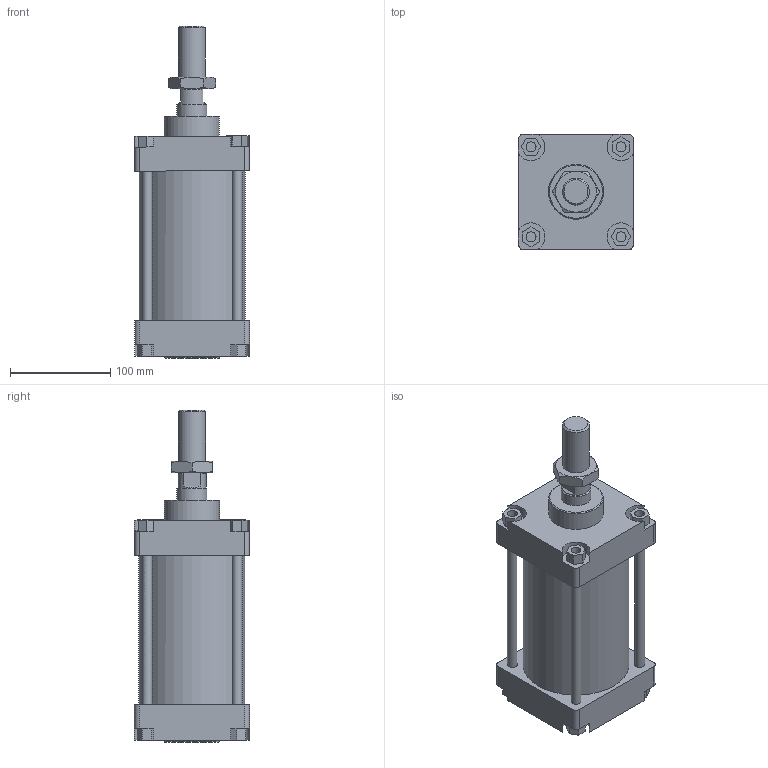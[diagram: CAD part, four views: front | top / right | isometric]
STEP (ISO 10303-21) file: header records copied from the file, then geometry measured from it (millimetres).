
FILE_DESCRIPTION(/* description */ (''),/* implementation_level */ '2;1');
FILE_NAME(/* name */ 'I:\Area Tecnica\Disegni\VARIE-3D\Componenti\CSP\Ø100\130#_100_####_###\1303_100_0075_01A.stp',/* time_stamp */ '2016-11-24T14:04:05+01:00',/* author */ ('Maniean1'),/* organization */ ('Pneumax S.p.A.'),/* preprocessor_version */ 'ST-DEVELOPER v15.2',/* originating_system */ 'Autodesk Inventor 2014',/* authorisation */ '');
FILE_SCHEMA (('AUTOMOTIVE_DESIGN { 1 0 10303 214 3 1 1 }'));
Length unit declared in the file: millimetre
Products named in the file (6): C_130#_100_0075; Testata anteriore_100; Testata posteriore_100; S_1303_100_0075_01A; 1300_100_18F; 1303_100_0075_01A
Bounding box: 115 x 115 x 332 mm (x, y, z)
Volume: 1784243.9 mm3; surface area: 293935.8 mm2
Topology: 9 solids, 9 shells, 162 faces, 380 edges, 249 vertices
Faces by surface type: plane 105, cylinder 42, cone 15
Full cylindrical faces by diameter (mm): 10 x12, 19 x2, 21.8 x1, 24.835 x1, 27 x1, 28 x1, 30 x3, 55 x2, 100 x2, 106 x1
Entity records: 4530 total; most frequent: CARTESIAN_POINT 785, DIRECTION 764, ORIENTED_EDGE 672, EDGE_CURVE 336, AXIS2_PLACEMENT_3D 271, VERTEX_POINT 244, EDGE_LOOP 236, LINE 222
